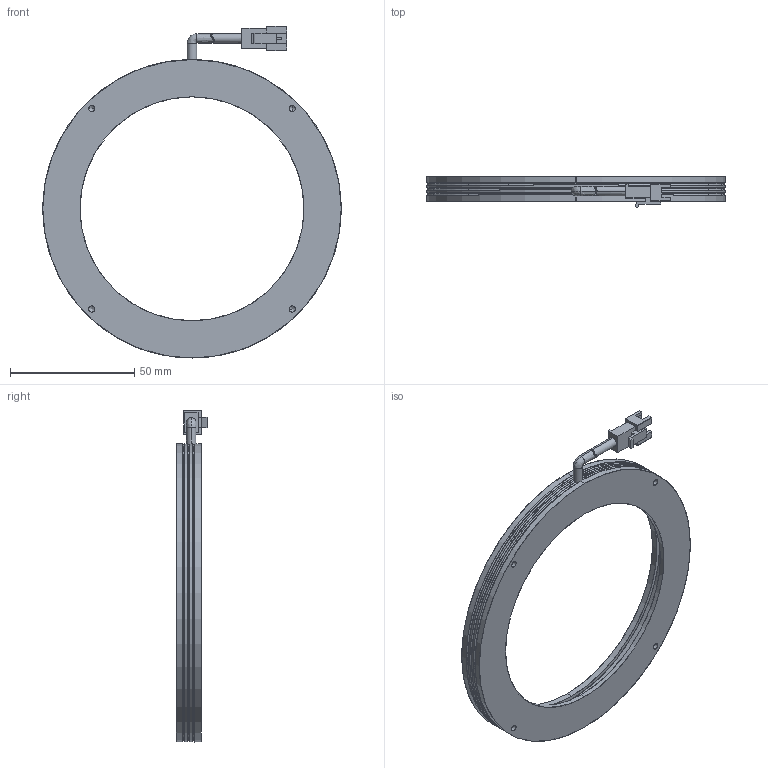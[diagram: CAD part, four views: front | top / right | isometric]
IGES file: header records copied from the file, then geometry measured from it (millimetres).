
Start section: SolidWorks IGES file using analytic representation for surfaces
Global section: file name: E:\SynologyDrive\新款图纸\标准产品\环光\环光90\R12090-90\ED\R12090-90.IGS; native system: SolidWorks 2020; preprocessor: SolidWorks 2020; author: Administrator; date: 200827.105255; units: millimetre
Bounding box: 120 x 12.65 x 133.5 mm (x, y, z)
Surface area: 32829.7 mm2 (no closed solid volume)
Topology: 0 solids, 0 shells, 193 faces, 2980 edges, 2964 vertices
Faces by surface type: bspline 111, revolution 82
